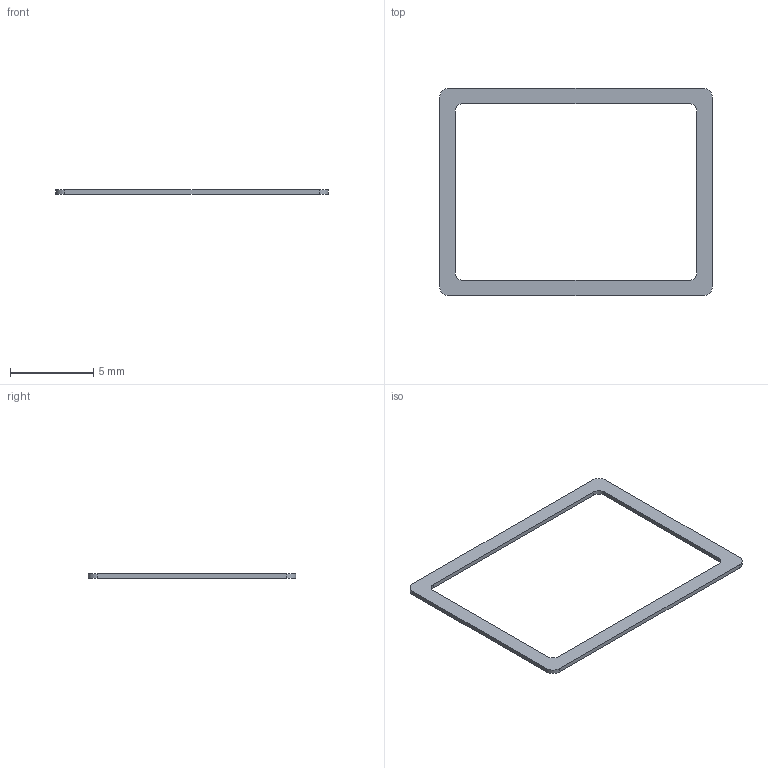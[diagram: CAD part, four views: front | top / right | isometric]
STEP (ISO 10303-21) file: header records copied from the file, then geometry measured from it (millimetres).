
FILE_DESCRIPTION(('Open CASCADE Model'),'2;1');
FILE_NAME('C27_UC1_Microphone_Rear_Preload','2026-09-09T20:28:18',( 'Author'),('Open CASCADE'),'Open CASCADE STEP processor 7.9', 'build123d','Unknown');
FILE_SCHEMA(('AUTOMOTIVE_DESIGN { 1 0 10303 214 1 1 1 1 }'));
Length unit declared in the file: millimetre
Products named in the file (1): C27_UC1_Microphone_Rear_Preload
Bounding box: 16.35 x 12.45 x 0.25 mm (x, y, z)
Volume: 12.4 mm3; surface area: 126.1 mm2
Topology: 1 solids, 1 shells, 18 faces, 48 edges, 32 vertices
Faces by surface type: plane 10, cylinder 8
Entity records: 1230 total; most frequent: CARTESIAN_POINT 243, DIRECTION 190, LINE 112, VECTOR 112, ORIENTED_EDGE 96, PCURVE 96, DEFINITIONAL_REPRESENTATION 96, EDGE_CURVE 48
